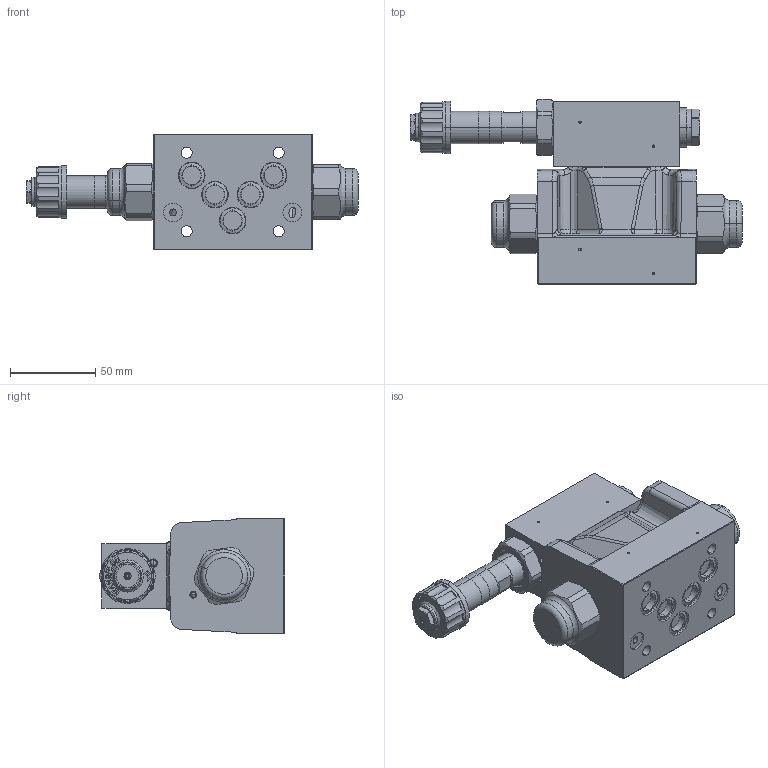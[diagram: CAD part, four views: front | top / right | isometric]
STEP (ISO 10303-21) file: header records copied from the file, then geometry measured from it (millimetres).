
FILE_DESCRIPTION (( 'STEP AP214' ), '1' );
FILE_NAME ('WDPFA10-4_2-Aside-ti_ae_xi_xe.STEP', '2017-06-15T07:56:37', ( '' ), ( '' ), 'SwSTEP 2.0', 'SolidWorks 2016', '' );
FILE_SCHEMA (( 'AUTOMOTIVE_DESIGN' ));
Length unit declared in the file: millimetre
Products named in the file (1): WDPFA10-4_2-Aside-ti_ae_xi_xe
Bounding box: 194.7 x 108.59 x 68 mm (x, y, z)
Volume: 534291.7 mm3; surface area: 78321.4 mm2
Topology: 10 solids, 21 shells, 1280 faces, 3060 edges, 1880 vertices
Faces by surface type: plane 447, cylinder 386, cone 211, bspline 151, torus 45, sphere 40
Entity records: 57581 total; most frequent: CARTESIAN_POINT 15024, ORIENTED_EDGE 6000, DIRECTION 5711, EDGE_CURVE 3000, AXIS2_PLACEMENT_3D 2145, VERTEX_POINT 1880, VECTOR 1421, LINE 1421
